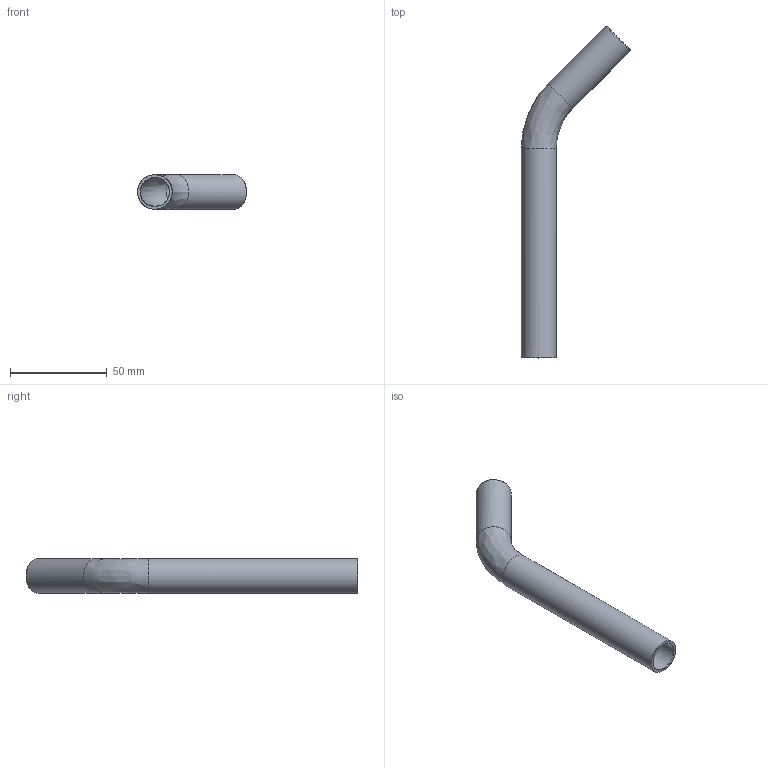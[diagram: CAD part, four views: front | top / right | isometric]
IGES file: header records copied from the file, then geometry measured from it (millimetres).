
Global section: file name: C73AD; native system: Autodesk Inventor 2023; preprocessor: unknown; author: lvalentini; date: 20230921.120728; units: millimetre
Bounding box: 56.29 x 171.29 x 18 mm (x, y, z)
Volume: 14074.3 mm3; surface area: 18859.8 mm2
Topology: 1 solids, 1 shells, 12 faces, 26 edges, 16 vertices
Faces by surface type: bspline 12
